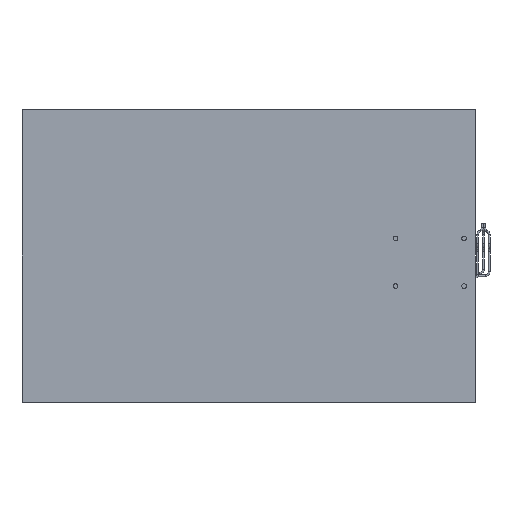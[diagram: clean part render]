
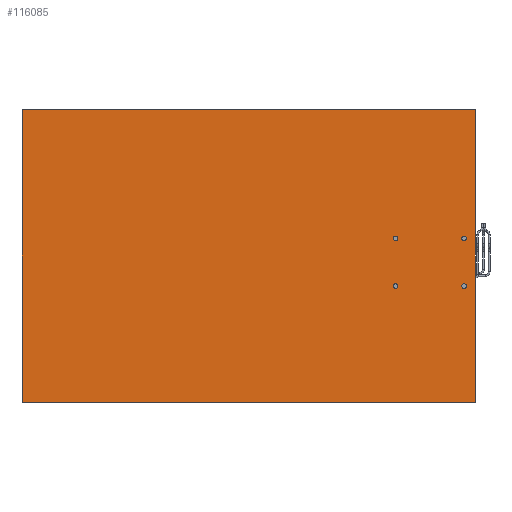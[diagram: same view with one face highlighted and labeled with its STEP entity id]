
A CAD part, front view. The second image highlights one B-rep face of the part: STEP entity #116085.
In plain terms, the highlighted planar face has unit normal (0, -1, 0).
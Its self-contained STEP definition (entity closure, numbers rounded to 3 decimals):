
#115869 = EDGE_CURVE('',#115870,#115872,#115874,.T.);
#115870 = VERTEX_POINT('',#115871);
#115871 = CARTESIAN_POINT('',(-25.,491.2,582.5));
#115872 = VERTEX_POINT('',#115873);
#115873 = CARTESIAN_POINT('',(-25.,491.2,937.5));
#115874 = SURFACE_CURVE('',#115875,(#115879,#115891),.PCURVE_S1.);
#115875 = LINE('',#115876,#115877);
#115876 = CARTESIAN_POINT('',(-25.,491.2,582.5));
#115877 = VECTOR('',#115878,1.);
#115878 = DIRECTION('',(0.,0.,1.));
#115879 = PCURVE('',#115880,#115885);
#115880 = PLANE('',#115881);
#115881 = AXIS2_PLACEMENT_3D('',#115882,#115883,#115884);
#115882 = CARTESIAN_POINT('',(-25.,491.2,582.5));
#115883 = DIRECTION('',(1.,0.,0.));
#115884 = DIRECTION('',(0.,0.,1.));
#115885 = DEFINITIONAL_REPRESENTATION('',(#115886),#115890);
#115886 = LINE('',#115887,#115888);
#115887 = CARTESIAN_POINT('',(0.,0.));
#115888 = VECTOR('',#115889,1.);
#115889 = DIRECTION('',(1.,0.));
#115890 = ( GEOMETRIC_REPRESENTATION_CONTEXT(2) 
PARAMETRIC_REPRESENTATION_CONTEXT() REPRESENTATION_CONTEXT('2D SPACE',''
  ) );
#115891 = PCURVE('',#115892,#115897);
#115892 = PLANE('',#115893);
#115893 = AXIS2_PLACEMENT_3D('',#115894,#115895,#115896);
#115894 = CARTESIAN_POINT('',(-25.,491.2,582.5));
#115895 = DIRECTION('',(0.,1.,0.));
#115896 = DIRECTION('',(0.,0.,1.));
#115897 = DEFINITIONAL_REPRESENTATION('',(#115898),#115902);
#115898 = LINE('',#115899,#115900);
#115899 = CARTESIAN_POINT('',(0.,0.));
#115900 = VECTOR('',#115901,1.);
#115901 = DIRECTION('',(1.,0.));
#115902 = ( GEOMETRIC_REPRESENTATION_CONTEXT(2) 
PARAMETRIC_REPRESENTATION_CONTEXT() REPRESENTATION_CONTEXT('2D SPACE',''
  ) );
#115920 = PLANE('',#115921);
#115921 = AXIS2_PLACEMENT_3D('',#115922,#115923,#115924);
#115922 = CARTESIAN_POINT('',(-25.,491.2,582.5));
#115923 = DIRECTION('',(0.,0.,1.));
#115924 = DIRECTION('',(1.,0.,0.));
#115974 = PLANE('',#115975);
#115975 = AXIS2_PLACEMENT_3D('',#115976,#115977,#115978);
#115976 = CARTESIAN_POINT('',(-25.,491.2,937.5));
#115977 = DIRECTION('',(0.,0.,1.));
#115978 = DIRECTION('',(1.,0.,0.));
#115989 = EDGE_CURVE('',#115990,#115992,#115994,.T.);
#115990 = VERTEX_POINT('',#115991);
#115991 = CARTESIAN_POINT('',(525.,491.2,582.5));
#115992 = VERTEX_POINT('',#115993);
#115993 = CARTESIAN_POINT('',(525.,491.2,937.5));
#115994 = SURFACE_CURVE('',#115995,(#115999,#116011),.PCURVE_S1.);
#115995 = LINE('',#115996,#115997);
#115996 = CARTESIAN_POINT('',(525.,491.2,582.5));
#115997 = VECTOR('',#115998,1.);
#115998 = DIRECTION('',(0.,0.,1.));
#115999 = PCURVE('',#116000,#116005);
#116000 = PLANE('',#116001);
#116001 = AXIS2_PLACEMENT_3D('',#116002,#116003,#116004);
#116002 = CARTESIAN_POINT('',(525.,491.2,582.5));
#116003 = DIRECTION('',(1.,0.,0.));
#116004 = DIRECTION('',(0.,0.,1.));
#116005 = DEFINITIONAL_REPRESENTATION('',(#116006),#116010);
#116006 = LINE('',#116007,#116008);
#116007 = CARTESIAN_POINT('',(0.,0.));
#116008 = VECTOR('',#116009,1.);
#116009 = DIRECTION('',(1.,0.));
#116010 = ( GEOMETRIC_REPRESENTATION_CONTEXT(2) 
PARAMETRIC_REPRESENTATION_CONTEXT() REPRESENTATION_CONTEXT('2D SPACE',''
  ) );
#116011 = PCURVE('',#115892,#116012);
#116012 = DEFINITIONAL_REPRESENTATION('',(#116013),#116017);
#116013 = LINE('',#116014,#116015);
#116014 = CARTESIAN_POINT('',(0.,550.));
#116015 = VECTOR('',#116016,1.);
#116016 = DIRECTION('',(1.,0.));
#116017 = ( GEOMETRIC_REPRESENTATION_CONTEXT(2) 
PARAMETRIC_REPRESENTATION_CONTEXT() REPRESENTATION_CONTEXT('2D SPACE',''
  ) );
#116085 = ADVANCED_FACE('',(#116086),#115892,.F.);
#116086 = FACE_BOUND('',#116087,.F.);
#116087 = EDGE_LOOP('',(#116088,#116109,#116110,#116131));
#116088 = ORIENTED_EDGE('',*,*,#116089,.F.);
#116089 = EDGE_CURVE('',#115870,#115990,#116090,.T.);
#116090 = SURFACE_CURVE('',#116091,(#116095,#116102),.PCURVE_S1.);
#116091 = LINE('',#116092,#116093);
#116092 = CARTESIAN_POINT('',(-25.,491.2,582.5));
#116093 = VECTOR('',#116094,1.);
#116094 = DIRECTION('',(1.,0.,0.));
#116095 = PCURVE('',#115892,#116096);
#116096 = DEFINITIONAL_REPRESENTATION('',(#116097),#116101);
#116097 = LINE('',#116098,#116099);
#116098 = CARTESIAN_POINT('',(0.,0.));
#116099 = VECTOR('',#116100,1.);
#116100 = DIRECTION('',(0.,1.));
#116101 = ( GEOMETRIC_REPRESENTATION_CONTEXT(2) 
PARAMETRIC_REPRESENTATION_CONTEXT() REPRESENTATION_CONTEXT('2D SPACE',''
  ) );
#116102 = PCURVE('',#115920,#116103);
#116103 = DEFINITIONAL_REPRESENTATION('',(#116104),#116108);
#116104 = LINE('',#116105,#116106);
#116105 = CARTESIAN_POINT('',(0.,0.));
#116106 = VECTOR('',#116107,1.);
#116107 = DIRECTION('',(1.,0.));
#116108 = ( GEOMETRIC_REPRESENTATION_CONTEXT(2) 
PARAMETRIC_REPRESENTATION_CONTEXT() REPRESENTATION_CONTEXT('2D SPACE',''
  ) );
#116109 = ORIENTED_EDGE('',*,*,#115869,.T.);
#116110 = ORIENTED_EDGE('',*,*,#116111,.T.);
#116111 = EDGE_CURVE('',#115872,#115992,#116112,.T.);
#116112 = SURFACE_CURVE('',#116113,(#116117,#116124),.PCURVE_S1.);
#116113 = LINE('',#116114,#116115);
#116114 = CARTESIAN_POINT('',(-25.,491.2,937.5));
#116115 = VECTOR('',#116116,1.);
#116116 = DIRECTION('',(1.,0.,0.));
#116117 = PCURVE('',#115892,#116118);
#116118 = DEFINITIONAL_REPRESENTATION('',(#116119),#116123);
#116119 = LINE('',#116120,#116121);
#116120 = CARTESIAN_POINT('',(355.,0.));
#116121 = VECTOR('',#116122,1.);
#116122 = DIRECTION('',(0.,1.));
#116123 = ( GEOMETRIC_REPRESENTATION_CONTEXT(2) 
PARAMETRIC_REPRESENTATION_CONTEXT() REPRESENTATION_CONTEXT('2D SPACE',''
  ) );
#116124 = PCURVE('',#115974,#116125);
#116125 = DEFINITIONAL_REPRESENTATION('',(#116126),#116130);
#116126 = LINE('',#116127,#116128);
#116127 = CARTESIAN_POINT('',(0.,0.));
#116128 = VECTOR('',#116129,1.);
#116129 = DIRECTION('',(1.,0.));
#116130 = ( GEOMETRIC_REPRESENTATION_CONTEXT(2) 
PARAMETRIC_REPRESENTATION_CONTEXT() REPRESENTATION_CONTEXT('2D SPACE',''
  ) );
#116131 = ORIENTED_EDGE('',*,*,#115989,.F.);
